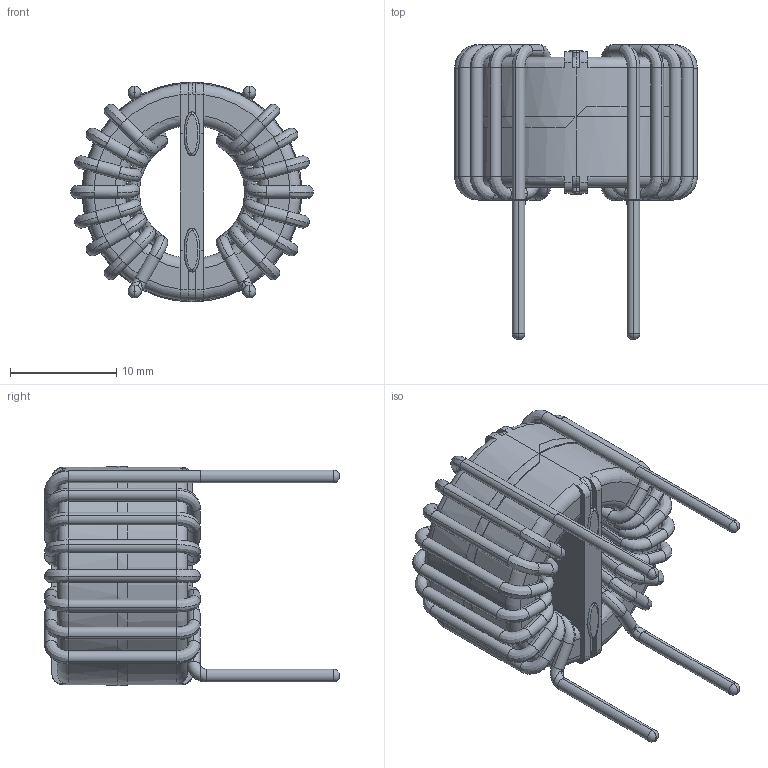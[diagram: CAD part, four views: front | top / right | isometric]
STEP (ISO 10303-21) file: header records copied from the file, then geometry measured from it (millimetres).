
FILE_DESCRIPTION (( 'STEP AP203' ), '1' );
FILE_NAME ('GN-H-601U-6A.STEP', '2020-08-13T06:02:22', ( 'Windows User' ), ( '' ), 'SwSTEP 2.0', 'SolidWorks 2015', '' );
FILE_SCHEMA (( 'CONFIG_CONTROL_DESIGN' ));
Length unit declared in the file: millimetre
Products named in the file (1): GN-H-601U-6A
Bounding box: 22.8 x 27.69 x 20.61 mm (x, y, z)
Volume: 3555.1 mm3; surface area: 4613.1 mm2
Topology: 12 solids, 12 shells, 430 faces, 1116 edges, 708 vertices
Faces by surface type: cylinder 150, torus 108, bspline 88, plane 84
Entity records: 19171 total; most frequent: CARTESIAN_POINT 8815, ORIENTED_EDGE 2232, DIRECTION 2226, EDGE_CURVE 1116, AXIS2_PLACEMENT_3D 955, VERTEX_POINT 708, CIRCLE 612, EDGE_LOOP 430
